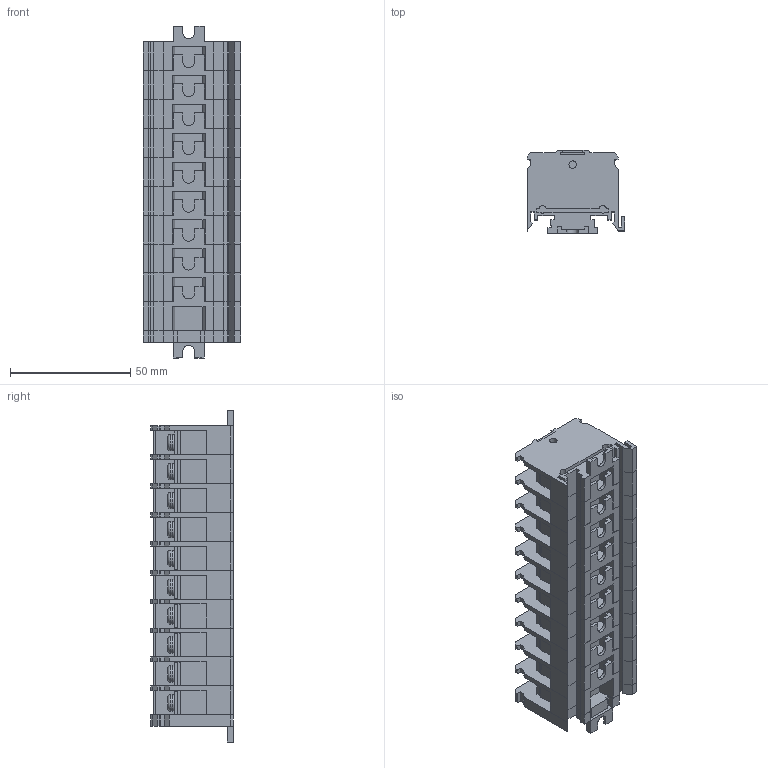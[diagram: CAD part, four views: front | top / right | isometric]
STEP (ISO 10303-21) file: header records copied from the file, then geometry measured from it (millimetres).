
FILE_DESCRIPTION (( 'STEP AP203' ), '1' );
FILE_NAME ('tk-030 孰屐祉 蝈痨桧嚯 TK-030 漕 4 祆2 30A.STEP', '2017-04-21T16:24:47', ( 'kuryshev' ), ( '' ), 'SwSTEP 2.0', 'SolidWorks 2010', '' );
FILE_SCHEMA (( 'CONFIG_CONTROL_DESIGN' ));
Products named in the file (1): tk-030 孰屐祉 蝈痨桧嚯 TK-030 漕 4 祆2 30A
Bounding box: 40.55 x 34.3 x 137.8 mm (x, y, z)
Volume: 66396.6 mm3; surface area: 86480.2 mm2
Topology: 63 solids, 63 shells, 2204 faces, 5818 edges, 3852 vertices
Faces by surface type: plane 1866, cylinder 258, torus 80
Entity records: 68071 total; most frequent: CARTESIAN_POINT 13275, ORIENTED_EDGE 11636, DIRECTION 10684, EDGE_CURVE 5818, VECTOR 4802, LINE 4802, VERTEX_POINT 3852, AXIS2_PLACEMENT_3D 2941
